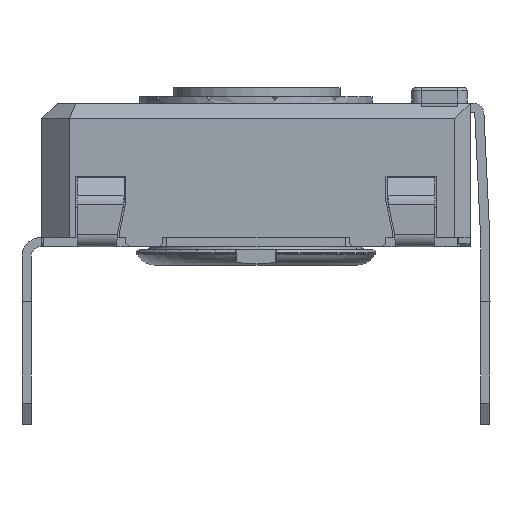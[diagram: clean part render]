
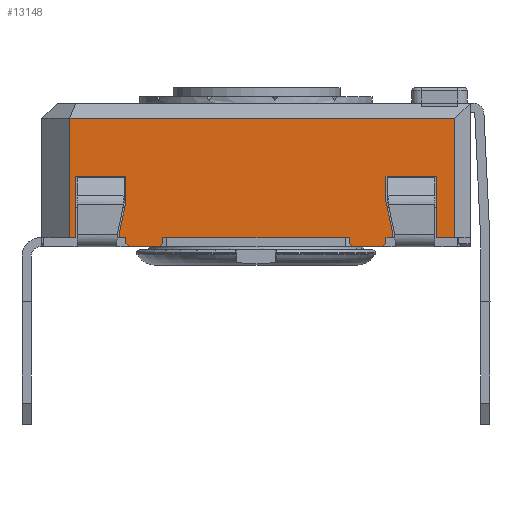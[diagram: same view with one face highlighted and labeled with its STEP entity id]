
A CAD part, left-side view. The second image highlights one B-rep face of the part: STEP entity #13148.
In plain terms, the highlighted planar face has unit normal (-1, 0, 0).
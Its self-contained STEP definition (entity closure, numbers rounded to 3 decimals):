
#1023=FACE_OUTER_BOUND('',#1708,.T.);
#1708=EDGE_LOOP('',(#10493,#10494,#10495,#10496,#10497,#10498,#10499,#10500,
#10501,#10502,#10503,#10504,#10505,#10506,#10507,#10508,#10509,#10510,#10511,
#10512,#10513,#10514,#10515,#10516,#10517,#10518,#10519,#10520));
#2721=LINE('',#20133,#4233);
#2727=LINE('',#20145,#4239);
#2730=LINE('',#20152,#4242);
#2735=LINE('',#20161,#4247);
#2755=LINE('',#20202,#4267);
#2769=LINE('',#20228,#4281);
#2773=LINE('',#20235,#4285);
#2788=LINE('',#20264,#4300);
#2791=LINE('',#20270,#4303);
#2796=LINE('',#20280,#4308);
#2799=LINE('',#20286,#4311);
#2802=LINE('',#20292,#4314);
#2820=LINE('',#20327,#4332);
#2832=LINE('',#20349,#4344);
#2835=LINE('',#20355,#4347);
#2872=LINE('',#20489,#4384);
#2880=LINE('',#20503,#4392);
#2889=LINE('',#20521,#4401);
#2894=LINE('',#20531,#4406);
#2896=LINE('',#20534,#4408);
#3021=LINE('',#20845,#4533);
#3023=LINE('',#20850,#4535);
#3026=LINE('',#20854,#4538);
#3028=LINE('',#20858,#4540);
#3031=LINE('',#20866,#4543);
#3032=LINE('',#20868,#4544);
#3033=LINE('',#20869,#4545);
#3034=LINE('',#20870,#4546);
#4233=VECTOR('',#16112,10.);
#4239=VECTOR('',#16120,10.);
#4242=VECTOR('',#16125,10.);
#4247=VECTOR('',#16132,10.);
#4267=VECTOR('',#16166,10.);
#4281=VECTOR('',#16180,10.);
#4285=VECTOR('',#16184,10.);
#4300=VECTOR('',#16211,10.);
#4303=VECTOR('',#16216,10.);
#4308=VECTOR('',#16223,10.);
#4311=VECTOR('',#16228,10.);
#4314=VECTOR('',#16233,10.);
#4332=VECTOR('',#16253,10.);
#4344=VECTOR('',#16267,10.);
#4347=VECTOR('',#16272,10.);
#4384=VECTOR('',#16353,10.);
#4392=VECTOR('',#16363,10.);
#4401=VECTOR('',#16374,10.);
#4406=VECTOR('',#16381,10.);
#4408=VECTOR('',#16385,10.);
#4533=VECTOR('',#16676,10.);
#4535=VECTOR('',#16680,10.);
#4538=VECTOR('',#16685,10.);
#4540=VECTOR('',#16691,10.);
#4543=VECTOR('',#16702,10.);
#4544=VECTOR('',#16703,10.);
#4545=VECTOR('',#16704,10.);
#4546=VECTOR('',#16705,10.);
#5649=VERTEX_POINT('',#20130);
#5650=VERTEX_POINT('',#20132);
#5654=VERTEX_POINT('',#20142);
#5656=VERTEX_POINT('',#20148);
#5658=VERTEX_POINT('',#20151);
#5661=VERTEX_POINT('',#20159);
#5686=VERTEX_POINT('',#20225);
#5687=VERTEX_POINT('',#20227);
#5689=VERTEX_POINT('',#20232);
#5690=VERTEX_POINT('',#20234);
#5697=VERTEX_POINT('',#20261);
#5699=VERTEX_POINT('',#20267);
#5703=VERTEX_POINT('',#20277);
#5705=VERTEX_POINT('',#20283);
#5708=VERTEX_POINT('',#20290);
#5724=VERTEX_POINT('',#20325);
#5733=VERTEX_POINT('',#20347);
#5735=VERTEX_POINT('',#20353);
#5762=VERTEX_POINT('',#20487);
#5767=VERTEX_POINT('',#20501);
#5774=VERTEX_POINT('',#20518);
#5778=VERTEX_POINT('',#20528);
#5852=VERTEX_POINT('',#20842);
#5853=VERTEX_POINT('',#20844);
#5854=VERTEX_POINT('',#20848);
#5855=VERTEX_POINT('',#20849);
#5856=VERTEX_POINT('',#20865);
#5857=VERTEX_POINT('',#20867);
#7183=EDGE_CURVE('',#5650,#5649,#2721,.T.);
#7189=EDGE_CURVE('',#5649,#5654,#2727,.T.);
#7192=EDGE_CURVE('',#5658,#5656,#2730,.T.);
#7197=EDGE_CURVE('',#5661,#5656,#2735,.T.);
#7217=EDGE_CURVE('',#5654,#5658,#2755,.T.);
#7231=EDGE_CURVE('',#5687,#5686,#2769,.T.);
#7235=EDGE_CURVE('',#5690,#5689,#2773,.T.);
#7251=EDGE_CURVE('',#5686,#5697,#2788,.T.);
#7254=EDGE_CURVE('',#5697,#5699,#2791,.T.);
#7259=EDGE_CURVE('',#5699,#5703,#2796,.T.);
#7262=EDGE_CURVE('',#5703,#5705,#2799,.T.);
#7265=EDGE_CURVE('',#5705,#5708,#2802,.T.);
#7283=EDGE_CURVE('',#5708,#5724,#2820,.T.);
#7295=EDGE_CURVE('',#5733,#5724,#2832,.T.);
#7298=EDGE_CURVE('',#5735,#5733,#2835,.T.);
#7347=EDGE_CURVE('',#5762,#5735,#2872,.T.);
#7355=EDGE_CURVE('',#5762,#5767,#2880,.T.);
#7364=EDGE_CURVE('',#5767,#5774,#2889,.T.);
#7369=EDGE_CURVE('',#5774,#5778,#2894,.T.);
#7371=EDGE_CURVE('',#5778,#5650,#2896,.T.);
#7512=EDGE_CURVE('',#5852,#5853,#3021,.T.);
#7514=EDGE_CURVE('',#5854,#5855,#3023,.T.);
#7517=EDGE_CURVE('',#5687,#5852,#3026,.T.);
#7519=EDGE_CURVE('',#5689,#5855,#3028,.T.);
#7522=EDGE_CURVE('',#5661,#5856,#3031,.T.);
#7523=EDGE_CURVE('',#5857,#5856,#3032,.T.);
#7524=EDGE_CURVE('',#5690,#5857,#3033,.T.);
#7525=EDGE_CURVE('',#5854,#5853,#3034,.T.);
#10493=ORIENTED_EDGE('',*,*,#7189,.T.);
#10494=ORIENTED_EDGE('',*,*,#7217,.T.);
#10495=ORIENTED_EDGE('',*,*,#7192,.T.);
#10496=ORIENTED_EDGE('',*,*,#7197,.F.);
#10497=ORIENTED_EDGE('',*,*,#7522,.T.);
#10498=ORIENTED_EDGE('',*,*,#7523,.F.);
#10499=ORIENTED_EDGE('',*,*,#7524,.F.);
#10500=ORIENTED_EDGE('',*,*,#7235,.T.);
#10501=ORIENTED_EDGE('',*,*,#7519,.T.);
#10502=ORIENTED_EDGE('',*,*,#7514,.F.);
#10503=ORIENTED_EDGE('',*,*,#7525,.T.);
#10504=ORIENTED_EDGE('',*,*,#7512,.F.);
#10505=ORIENTED_EDGE('',*,*,#7517,.F.);
#10506=ORIENTED_EDGE('',*,*,#7231,.T.);
#10507=ORIENTED_EDGE('',*,*,#7251,.T.);
#10508=ORIENTED_EDGE('',*,*,#7254,.T.);
#10509=ORIENTED_EDGE('',*,*,#7259,.T.);
#10510=ORIENTED_EDGE('',*,*,#7262,.T.);
#10511=ORIENTED_EDGE('',*,*,#7265,.T.);
#10512=ORIENTED_EDGE('',*,*,#7283,.T.);
#10513=ORIENTED_EDGE('',*,*,#7295,.F.);
#10514=ORIENTED_EDGE('',*,*,#7298,.F.);
#10515=ORIENTED_EDGE('',*,*,#7347,.F.);
#10516=ORIENTED_EDGE('',*,*,#7355,.T.);
#10517=ORIENTED_EDGE('',*,*,#7364,.T.);
#10518=ORIENTED_EDGE('',*,*,#7369,.T.);
#10519=ORIENTED_EDGE('',*,*,#7371,.T.);
#10520=ORIENTED_EDGE('',*,*,#7183,.T.);
#12319=PLANE('',#14030);
#13148=ADVANCED_FACE('',(#1023),#12319,.T.);
#14030=AXIS2_PLACEMENT_3D('',#20864,#16700,#16701);
#16112=DIRECTION('',(0.,0.208,-0.978));
#16120=DIRECTION('',(0.,0.,-1.));
#16125=DIRECTION('',(0.,0.,-1.));
#16132=DIRECTION('',(0.,0.707,0.707));
#16166=DIRECTION('',(0.,-1.,0.));
#16180=DIRECTION('',(0.,-1.,0.));
#16184=DIRECTION('',(0.,-1.,0.));
#16211=DIRECTION('',(0.,0.,1.));
#16216=DIRECTION('',(0.,0.208,0.978));
#16223=DIRECTION('',(0.,0.,1.));
#16228=DIRECTION('',(0.,-1.,0.));
#16233=DIRECTION('',(0.,0.,-1.));
#16253=DIRECTION('',(0.,-1.,0.));
#16267=DIRECTION('',(0.,0.,-1.));
#16272=DIRECTION('',(0.,-1.,0.));
#16353=DIRECTION('',(0.,0.,1.));
#16363=DIRECTION('',(0.,-1.,0.));
#16374=DIRECTION('',(0.,0.,1.));
#16381=DIRECTION('',(0.,-1.,0.));
#16385=DIRECTION('',(0.,0.,-1.));
#16676=DIRECTION('',(0.,0.707,-0.707));
#16680=DIRECTION('',(0.,0.707,0.707));
#16685=DIRECTION('',(0.,0.,-1.));
#16691=DIRECTION('',(0.,0.,-1.));
#16700=DIRECTION('center_axis',(-1.,0.,0.));
#16701=DIRECTION('ref_axis',(0.,0.,1.));
#16702=DIRECTION('',(0.,-1.,0.));
#16703=DIRECTION('',(0.,0.707,-0.707));
#16704=DIRECTION('',(0.,0.,-1.));
#16705=DIRECTION('',(0.,-1.,0.));
#20130=CARTESIAN_POINT('',(-14.467,1.552,0.235));
#20132=CARTESIAN_POINT('',(-14.467,1.352,1.176));
#20133=CARTESIAN_POINT('',(-14.467,1.228,1.757));
#20142=CARTESIAN_POINT('',(-14.467,1.552,0.));
#20145=CARTESIAN_POINT('',(-14.467,1.552,0.));
#20148=CARTESIAN_POINT('',(-14.467,1.352,-0.2));
#20151=CARTESIAN_POINT('',(-14.467,1.352,0.));
#20152=CARTESIAN_POINT('',(-14.467,1.352,0.));
#20159=CARTESIAN_POINT('',(-14.467,1.252,-0.3));
#20161=CARTESIAN_POINT('',(-14.467,-1.436,-2.988));
#20202=CARTESIAN_POINT('',(-14.467,4.102,0.));
#20225=CARTESIAN_POINT('',(-14.467,-7.348,0.));
#20227=CARTESIAN_POINT('',(-14.467,-7.148,0.));
#20228=CARTESIAN_POINT('',(-14.467,4.102,0.));
#20232=CARTESIAN_POINT('',(-14.467,-5.948,0.));
#20234=CARTESIAN_POINT('',(-14.467,0.152,0.));
#20235=CARTESIAN_POINT('',(-14.467,4.102,0.));
#20261=CARTESIAN_POINT('',(-14.467,-7.348,0.235));
#20264=CARTESIAN_POINT('',(-14.467,-7.348,0.118));
#20267=CARTESIAN_POINT('',(-14.467,-7.148,1.176));
#20270=CARTESIAN_POINT('',(-14.467,-7.453,-0.254));
#20277=CARTESIAN_POINT('',(-14.467,-7.148,2.));
#20280=CARTESIAN_POINT('',(-14.467,-7.148,0.588));
#20283=CARTESIAN_POINT('',(-14.467,-8.798,2.));
#20286=CARTESIAN_POINT('',(-14.467,-8.523,2.));
#20290=CARTESIAN_POINT('',(-14.467,-8.798,0.));
#20292=CARTESIAN_POINT('',(-14.467,-8.798,0.));
#20325=CARTESIAN_POINT('',(-14.467,-9.398,0.));
#20327=CARTESIAN_POINT('',(-14.467,-9.595,0.));
#20347=CARTESIAN_POINT('',(-14.467,-9.398,3.9));
#20349=CARTESIAN_POINT('',(-14.467,-9.398,0.));
#20353=CARTESIAN_POINT('',(-14.467,3.202,3.9));
#20355=CARTESIAN_POINT('',(-14.467,-6.398,3.9));
#20487=CARTESIAN_POINT('',(-14.467,3.202,0.));
#20489=CARTESIAN_POINT('',(-14.467,3.202,0.));
#20501=CARTESIAN_POINT('',(-14.467,3.002,0.));
#20503=CARTESIAN_POINT('',(-14.467,-2.985,0.));
#20518=CARTESIAN_POINT('',(-14.467,3.002,2.));
#20521=CARTESIAN_POINT('',(-14.467,3.002,0.));
#20528=CARTESIAN_POINT('',(-14.467,1.352,2.));
#20531=CARTESIAN_POINT('',(-14.467,-3.448,2.));
#20534=CARTESIAN_POINT('',(-14.467,1.352,1.));
#20842=CARTESIAN_POINT('',(-14.467,-7.148,-0.2));
#20844=CARTESIAN_POINT('',(-14.467,-7.048,-0.3));
#20845=CARTESIAN_POINT('',(-14.467,-7.861,0.513));
#20848=CARTESIAN_POINT('',(-14.467,-6.048,-0.3));
#20849=CARTESIAN_POINT('',(-14.467,-5.948,-0.2));
#20850=CARTESIAN_POINT('',(-14.467,-6.911,-1.163));
#20854=CARTESIAN_POINT('',(-14.467,-7.148,0.));
#20858=CARTESIAN_POINT('',(-14.467,-5.948,0.));
#20864=CARTESIAN_POINT('Origin',(-14.467,-9.898,0.));
#20865=CARTESIAN_POINT('',(-14.467,0.252,-0.3));
#20866=CARTESIAN_POINT('',(-14.467,0.152,-0.3));
#20867=CARTESIAN_POINT('',(-14.467,0.152,-0.2));
#20868=CARTESIAN_POINT('',(-14.467,-2.386,2.338));
#20869=CARTESIAN_POINT('',(-14.467,0.152,0.));
#20870=CARTESIAN_POINT('',(-14.467,-7.148,-0.3));
